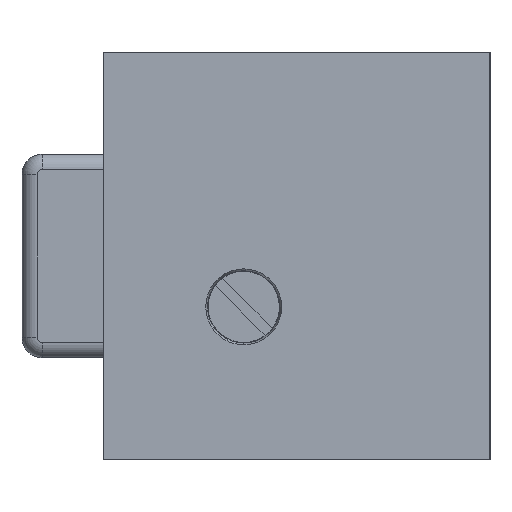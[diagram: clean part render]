
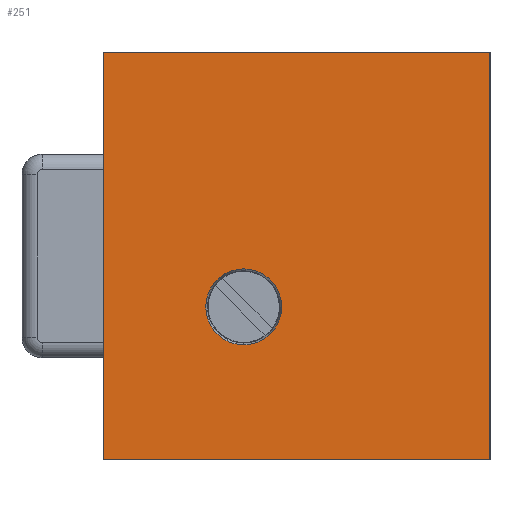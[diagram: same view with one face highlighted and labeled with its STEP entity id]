
A CAD part, left-side view. The second image highlights one B-rep face of the part: STEP entity #251.
In plain terms, the highlighted planar face has unit normal (-1, 0, 0).
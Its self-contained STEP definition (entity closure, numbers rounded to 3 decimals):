
#151 = EDGE_CURVE ( 'NONE', #5258, #1781, #5366, .T. ) ;
#233 = EDGE_LOOP ( 'NONE', ( #3463, #681 ) ) ;
#251 = ADVANCED_FACE ( 'NONE', ( #4585, #4512 ), #1789, .T. ) ;
#412 = DIRECTION ( 'NONE',  ( 0., 0., 1. ) ) ;
#447 = DIRECTION ( 'NONE',  ( 1., 0., 0. ) ) ;
#459 = CARTESIAN_POINT ( 'NONE',  ( 0., 24.2, -25. ) ) ;
#681 = ORIENTED_EDGE ( 'NONE', *, *, #5840, .T. ) ;
#950 = VERTEX_POINT ( 'NONE', #4213 ) ;
#1064 = CIRCLE ( 'NONE', #2383, 3.732 ) ;
#1128 = AXIS2_PLACEMENT_3D ( 'NONE', #4014, #5692, #3068 ) ;
#1216 = VECTOR ( 'NONE', #2037, 1000. ) ;
#1296 = ORIENTED_EDGE ( 'NONE', *, *, #151, .T. ) ;
#1415 = ORIENTED_EDGE ( 'NONE', *, *, #2203, .F. ) ;
#1634 = LINE ( 'NONE', #4803, #4187 ) ;
#1758 = DIRECTION ( 'NONE',  ( 0., 0., 1. ) ) ;
#1772 = DIRECTION ( 'NONE',  ( -1., 0., 0. ) ) ;
#1781 = VERTEX_POINT ( 'NONE', #2820 ) ;
#1789 = PLANE ( 'NONE',  #4207 ) ;
#1793 = VERTEX_POINT ( 'NONE', #2872 ) ;
#1826 = VERTEX_POINT ( 'NONE', #2739 ) ;
#1827 = CARTESIAN_POINT ( 'NONE',  ( 0., 0., -40. ) ) ;
#1996 = DIRECTION ( 'NONE',  ( 0., -1., 0. ) ) ;
#2037 = DIRECTION ( 'NONE',  ( 0., 0., 1. ) ) ;
#2088 = CARTESIAN_POINT ( 'NONE',  ( 0., 0., 0. ) ) ;
#2120 = CARTESIAN_POINT ( 'NONE',  ( 0., 0., -40. ) ) ;
#2181 = EDGE_CURVE ( 'NONE', #1793, #950, #4388, .T. ) ;
#2203 = EDGE_CURVE ( 'NONE', #950, #1781, #5086, .T. ) ;
#2383 = AXIS2_PLACEMENT_3D ( 'NONE', #459, #447, #412 ) ;
#2676 = CARTESIAN_POINT ( 'NONE',  ( 0., 38., -40. ) ) ;
#2739 = CARTESIAN_POINT ( 'NONE',  ( 0., 24.2, -21.268 ) ) ;
#2820 = CARTESIAN_POINT ( 'NONE',  ( 0., 0., 0. ) ) ;
#2872 = CARTESIAN_POINT ( 'NONE',  ( 0., 38., -40. ) ) ;
#3068 = DIRECTION ( 'NONE',  ( 0., 0., 1. ) ) ;
#3202 = EDGE_CURVE ( 'NONE', #1793, #5258, #1634, .T. ) ;
#3270 = VERTEX_POINT ( 'NONE', #4089 ) ;
#3273 = DIRECTION ( 'NONE',  ( 0., 0., 1. ) ) ;
#3285 = CARTESIAN_POINT ( 'NONE',  ( 0., 0., -40. ) ) ;
#3403 = CIRCLE ( 'NONE', #1128, 3.732 ) ;
#3463 = ORIENTED_EDGE ( 'NONE', *, *, #3961, .T. ) ;
#3961 = EDGE_CURVE ( 'NONE', #1826, #3270, #1064, .T. ) ;
#4014 = CARTESIAN_POINT ( 'NONE',  ( 0., 24.2, -25. ) ) ;
#4089 = CARTESIAN_POINT ( 'NONE',  ( 0., 24.2, -28.732 ) ) ;
#4091 = EDGE_LOOP ( 'NONE', ( #1415, #5416, #4590, #1296 ) ) ;
#4187 = VECTOR ( 'NONE', #4456, 1000. ) ;
#4207 = AXIS2_PLACEMENT_3D ( 'NONE', #1827, #1772, #1758 ) ;
#4213 = CARTESIAN_POINT ( 'NONE',  ( 0., 38., 0. ) ) ;
#4388 = LINE ( 'NONE', #2676, #1216 ) ;
#4456 = DIRECTION ( 'NONE',  ( 0., -1., 0. ) ) ;
#4512 = FACE_OUTER_BOUND ( 'NONE', #4091, .T. ) ;
#4585 = FACE_BOUND ( 'NONE', #233, .T. ) ;
#4590 = ORIENTED_EDGE ( 'NONE', *, *, #3202, .T. ) ;
#4803 = CARTESIAN_POINT ( 'NONE',  ( 0., 0., -40. ) ) ;
#5086 = LINE ( 'NONE', #2088, #5955 ) ;
#5258 = VERTEX_POINT ( 'NONE', #2120 ) ;
#5362 = VECTOR ( 'NONE', #3273, 1000. ) ;
#5366 = LINE ( 'NONE', #3285, #5362 ) ;
#5416 = ORIENTED_EDGE ( 'NONE', *, *, #2181, .F. ) ;
#5692 = DIRECTION ( 'NONE',  ( 1., 0., 0. ) ) ;
#5840 = EDGE_CURVE ( 'NONE', #3270, #1826, #3403, .T. ) ;
#5955 = VECTOR ( 'NONE', #1996, 1000. ) ;
